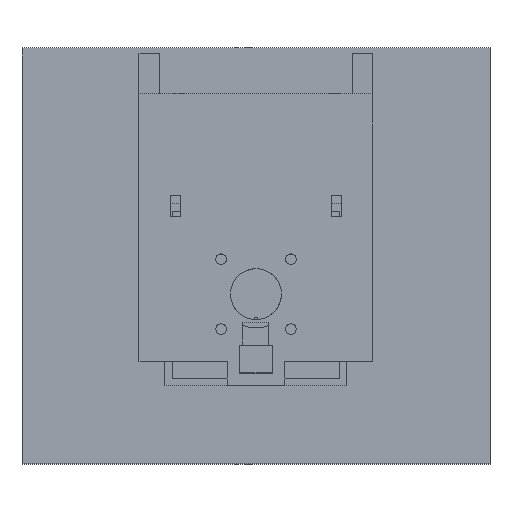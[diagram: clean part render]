
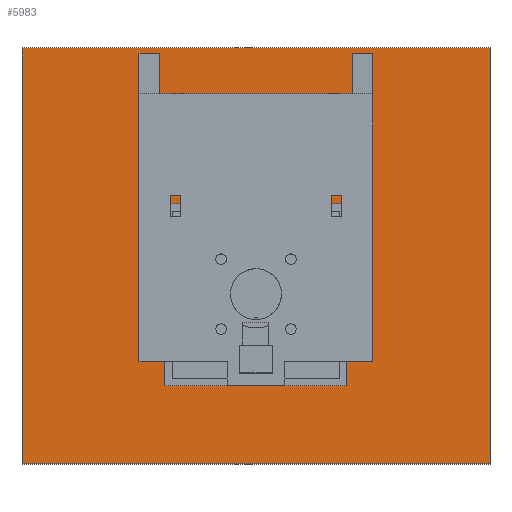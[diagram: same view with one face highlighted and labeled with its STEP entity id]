
A CAD part, top view. The second image highlights one B-rep face of the part: STEP entity #5983.
In plain terms, the highlighted planar face has unit normal (0, 0, 1).
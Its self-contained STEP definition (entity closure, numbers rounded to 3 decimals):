
#135=FACE_BOUND('',#510,.T.);
#136=FACE_BOUND('',#511,.T.);
#200=FACE_OUTER_BOUND('',#509,.T.);
#509=EDGE_LOOP('',(#3953,#3954,#3955,#3956));
#510=EDGE_LOOP('',(#3957,#3958,#3959,#3960));
#511=EDGE_LOOP('',(#3961,#3962,#3963,#3964,#3965,#3966,#3967,#3968,#3969,
#3970,#3971,#3972));
#880=LINE('',#8275,#1681);
#885=LINE('',#8284,#1686);
#886=LINE('',#8287,#1687);
#887=LINE('',#8288,#1688);
#888=LINE('',#8291,#1689);
#889=LINE('',#8293,#1690);
#890=LINE('',#8295,#1691);
#891=LINE('',#8296,#1692);
#892=LINE('',#8299,#1693);
#893=LINE('',#8301,#1694);
#894=LINE('',#8303,#1695);
#895=LINE('',#8305,#1696);
#896=LINE('',#8307,#1697);
#897=LINE('',#8309,#1698);
#898=LINE('',#8311,#1699);
#899=LINE('',#8313,#1700);
#900=LINE('',#8315,#1701);
#901=LINE('',#8317,#1702);
#902=LINE('',#8319,#1703);
#903=LINE('',#8320,#1704);
#1681=VECTOR('',#6699,1.);
#1686=VECTOR('',#6706,1.);
#1687=VECTOR('',#6709,1.);
#1688=VECTOR('',#6710,1.);
#1689=VECTOR('',#6711,1.);
#1690=VECTOR('',#6712,1.);
#1691=VECTOR('',#6713,1.);
#1692=VECTOR('',#6714,1.);
#1693=VECTOR('',#6715,1.);
#1694=VECTOR('',#6716,1.);
#1695=VECTOR('',#6717,1.);
#1696=VECTOR('',#6718,1.);
#1697=VECTOR('',#6719,1.);
#1698=VECTOR('',#6720,1.);
#1699=VECTOR('',#6721,1.);
#1700=VECTOR('',#6722,1.);
#1701=VECTOR('',#6723,1.);
#1702=VECTOR('',#6724,1.);
#1703=VECTOR('',#6725,1.);
#1704=VECTOR('',#6726,1.);
#2482=VERTEX_POINT('',#8272);
#2483=VERTEX_POINT('',#8274);
#2486=VERTEX_POINT('',#8282);
#2487=VERTEX_POINT('',#8286);
#2488=VERTEX_POINT('',#8289);
#2489=VERTEX_POINT('',#8290);
#2490=VERTEX_POINT('',#8292);
#2491=VERTEX_POINT('',#8294);
#2492=VERTEX_POINT('',#8297);
#2493=VERTEX_POINT('',#8298);
#2494=VERTEX_POINT('',#8300);
#2495=VERTEX_POINT('',#8302);
#2496=VERTEX_POINT('',#8304);
#2497=VERTEX_POINT('',#8306);
#2498=VERTEX_POINT('',#8308);
#2499=VERTEX_POINT('',#8310);
#2500=VERTEX_POINT('',#8312);
#2501=VERTEX_POINT('',#8314);
#2502=VERTEX_POINT('',#8316);
#2503=VERTEX_POINT('',#8318);
#3066=EDGE_CURVE('',#2482,#2483,#880,.T.);
#3071=EDGE_CURVE('',#2482,#2486,#885,.T.);
#3072=EDGE_CURVE('',#2486,#2487,#886,.T.);
#3073=EDGE_CURVE('',#2483,#2487,#887,.T.);
#3074=EDGE_CURVE('',#2488,#2489,#888,.T.);
#3075=EDGE_CURVE('',#2489,#2490,#889,.T.);
#3076=EDGE_CURVE('',#2491,#2490,#890,.T.);
#3077=EDGE_CURVE('',#2488,#2491,#891,.T.);
#3078=EDGE_CURVE('',#2492,#2493,#892,.T.);
#3079=EDGE_CURVE('',#2492,#2494,#893,.T.);
#3080=EDGE_CURVE('',#2494,#2495,#894,.T.);
#3081=EDGE_CURVE('',#2496,#2495,#895,.T.);
#3082=EDGE_CURVE('',#2496,#2497,#896,.T.);
#3083=EDGE_CURVE('',#2497,#2498,#897,.T.);
#3084=EDGE_CURVE('',#2498,#2499,#898,.T.);
#3085=EDGE_CURVE('',#2499,#2500,#899,.T.);
#3086=EDGE_CURVE('',#2501,#2500,#900,.T.);
#3087=EDGE_CURVE('',#2501,#2502,#901,.T.);
#3088=EDGE_CURVE('',#2503,#2502,#902,.T.);
#3089=EDGE_CURVE('',#2493,#2503,#903,.T.);
#3953=ORIENTED_EDGE('',*,*,#3066,.F.);
#3954=ORIENTED_EDGE('',*,*,#3071,.T.);
#3955=ORIENTED_EDGE('',*,*,#3072,.T.);
#3956=ORIENTED_EDGE('',*,*,#3073,.F.);
#3957=ORIENTED_EDGE('',*,*,#3074,.T.);
#3958=ORIENTED_EDGE('',*,*,#3075,.T.);
#3959=ORIENTED_EDGE('',*,*,#3076,.F.);
#3960=ORIENTED_EDGE('',*,*,#3077,.F.);
#3961=ORIENTED_EDGE('',*,*,#3078,.F.);
#3962=ORIENTED_EDGE('',*,*,#3079,.T.);
#3963=ORIENTED_EDGE('',*,*,#3080,.T.);
#3964=ORIENTED_EDGE('',*,*,#3081,.F.);
#3965=ORIENTED_EDGE('',*,*,#3082,.T.);
#3966=ORIENTED_EDGE('',*,*,#3083,.T.);
#3967=ORIENTED_EDGE('',*,*,#3084,.T.);
#3968=ORIENTED_EDGE('',*,*,#3085,.T.);
#3969=ORIENTED_EDGE('',*,*,#3086,.F.);
#3970=ORIENTED_EDGE('',*,*,#3087,.T.);
#3971=ORIENTED_EDGE('',*,*,#3088,.F.);
#3972=ORIENTED_EDGE('',*,*,#3089,.F.);
#5707=PLANE('',#6310);
#5983=ADVANCED_FACE('',(#200,#135,#136),#5707,.T.);
#6310=AXIS2_PLACEMENT_3D('',#8285,#6707,#6708);
#6699=DIRECTION('',(0.,1.,0.));
#6706=DIRECTION('',(1.,0.,0.));
#6707=DIRECTION('center_axis',(0.,0.,1.));
#6708=DIRECTION('ref_axis',(1.,0.,0.));
#6709=DIRECTION('',(0.,1.,0.));
#6710=DIRECTION('',(1.,0.,0.));
#6711=DIRECTION('',(0.,1.,0.));
#6712=DIRECTION('',(1.,0.,0.));
#6713=DIRECTION('',(0.,1.,0.));
#6714=DIRECTION('',(1.,0.,0.));
#6715=DIRECTION('',(1.,0.,0.));
#6716=DIRECTION('',(0.,1.,0.));
#6717=DIRECTION('',(1.,0.,0.));
#6718=DIRECTION('',(0.,1.,0.));
#6719=DIRECTION('',(1.,0.,0.));
#6720=DIRECTION('',(0.,1.,0.));
#6721=DIRECTION('',(1.,0.,0.));
#6722=DIRECTION('',(0.,-1.,0.));
#6723=DIRECTION('',(1.,0.,0.));
#6724=DIRECTION('',(0.,1.,0.));
#6725=DIRECTION('',(1.,0.,0.));
#6726=DIRECTION('',(0.,1.,0.));
#8272=CARTESIAN_POINT('',(0.,0.,8.));
#8274=CARTESIAN_POINT('',(0.,160.,8.));
#8275=CARTESIAN_POINT('',(0.,0.,8.));
#8282=CARTESIAN_POINT('',(180.,0.,8.));
#8284=CARTESIAN_POINT('',(0.,0.,8.));
#8285=CARTESIAN_POINT('Origin',(0.,0.,8.));
#8286=CARTESIAN_POINT('',(180.,160.,8.));
#8287=CARTESIAN_POINT('',(180.,0.,8.));
#8288=CARTESIAN_POINT('',(0.,160.,8.));
#8289=CARTESIAN_POINT('',(55.,30.,8.));
#8290=CARTESIAN_POINT('',(55.,100.,8.));
#8291=CARTESIAN_POINT('',(55.,30.,8.));
#8292=CARTESIAN_POINT('',(125.,100.,8.));
#8293=CARTESIAN_POINT('',(55.,100.,8.));
#8294=CARTESIAN_POINT('',(125.,30.,8.));
#8295=CARTESIAN_POINT('',(125.,30.,8.));
#8296=CARTESIAN_POINT('',(55.,30.,8.));
#8297=CARTESIAN_POINT('',(45.,95.,8.));
#8298=CARTESIAN_POINT('',(53.,95.,8.));
#8299=CARTESIAN_POINT('',(45.,95.,8.));
#8300=CARTESIAN_POINT('',(45.,158.,8.));
#8301=CARTESIAN_POINT('',(45.,95.,8.));
#8302=CARTESIAN_POINT('',(53.,158.,8.));
#8303=CARTESIAN_POINT('',(45.,158.,8.));
#8304=CARTESIAN_POINT('',(53.,142.,8.));
#8305=CARTESIAN_POINT('',(53.,142.,8.));
#8306=CARTESIAN_POINT('',(127.,142.,8.));
#8307=CARTESIAN_POINT('',(45.,142.,8.));
#8308=CARTESIAN_POINT('',(127.,158.,8.));
#8309=CARTESIAN_POINT('',(127.,142.,8.));
#8310=CARTESIAN_POINT('',(135.,158.,8.));
#8311=CARTESIAN_POINT('',(127.,158.,8.));
#8312=CARTESIAN_POINT('',(135.,95.,8.));
#8313=CARTESIAN_POINT('',(135.,158.,8.));
#8314=CARTESIAN_POINT('',(127.,95.,8.));
#8315=CARTESIAN_POINT('',(127.,95.,8.));
#8316=CARTESIAN_POINT('',(127.,130.,8.));
#8317=CARTESIAN_POINT('',(127.,95.,8.));
#8318=CARTESIAN_POINT('',(53.,130.,8.));
#8319=CARTESIAN_POINT('',(45.,130.,8.));
#8320=CARTESIAN_POINT('',(53.,95.,8.));
